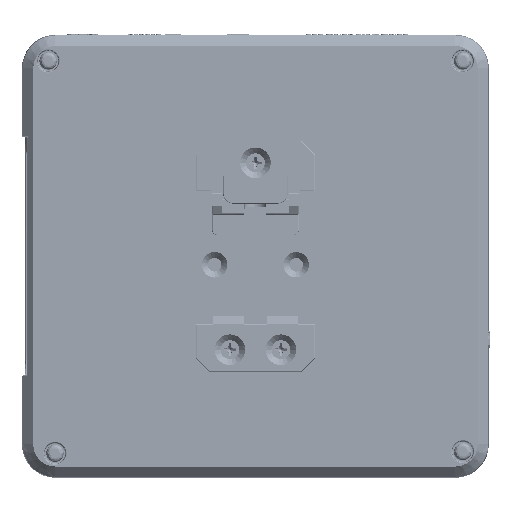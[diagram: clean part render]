
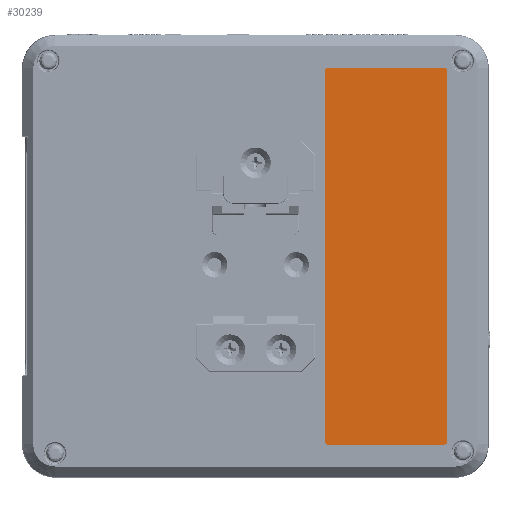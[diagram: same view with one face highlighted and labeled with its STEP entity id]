
A CAD part, front view. The second image highlights one B-rep face of the part: STEP entity #30239.
In plain terms, the highlighted planar face has unit normal (0, -1, 0).
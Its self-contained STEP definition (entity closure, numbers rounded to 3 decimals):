
#3517 = DIRECTION ( 'NONE',  ( 0., 0., 1. ) ) ;
#8633 = VECTOR ( 'NONE', #357803, 1000. ) ;
#8863 = CARTESIAN_POINT ( 'NONE',  ( 20.5, 0.2, -55.5 ) ) ;
#11775 = CARTESIAN_POINT ( 'NONE',  ( 21.5, 0.2, 55.5 ) ) ;
#16938 = LINE ( 'NONE', #366071, #159374 ) ;
#19784 = EDGE_LOOP ( 'NONE', ( #446763, #101046, #193505, #92716, #397189, #395133, #497290, #345263 ) ) ;
#30239 = ADVANCED_FACE ( 'NONE', ( #147780 ), #92141, .F. ) ;
#51324 = VECTOR ( 'NONE', #126090, 1000. ) ;
#51830 = CIRCLE ( 'NONE', #410084, 1. ) ;
#52015 = AXIS2_PLACEMENT_3D ( 'NONE', #244689, #163062, #530766 ) ;
#57851 = VERTEX_POINT ( 'NONE', #80251 ) ;
#65027 = VERTEX_POINT ( 'NONE', #310592 ) ;
#80251 = CARTESIAN_POINT ( 'NONE',  ( 20.5, 0.2, -54.5 ) ) ;
#80490 = VERTEX_POINT ( 'NONE', #273463 ) ;
#92141 = PLANE ( 'NONE',  #440659 ) ;
#92716 = ORIENTED_EDGE ( 'NONE', *, *, #473490, .T. ) ;
#101046 = ORIENTED_EDGE ( 'NONE', *, *, #157831, .T. ) ;
#115336 = VERTEX_POINT ( 'NONE', #180851 ) ;
#115528 = EDGE_CURVE ( 'NONE', #57851, #171941, #244914, .T. ) ;
#123252 = DIRECTION ( 'NONE',  ( -1., 0., 0. ) ) ;
#126090 = DIRECTION ( 'NONE',  ( 0., 0., -1. ) ) ;
#128394 = DIRECTION ( 'NONE',  ( 0., 1., 0. ) ) ;
#147780 = FACE_OUTER_BOUND ( 'NONE', #19784, .T. ) ;
#157831 = EDGE_CURVE ( 'NONE', #65027, #80490, #472776, .T. ) ;
#159374 = VECTOR ( 'NONE', #123252, 1000. ) ;
#163062 = DIRECTION ( 'NONE',  ( 0., -1., 0. ) ) ;
#171941 = VERTEX_POINT ( 'NONE', #179454 ) ;
#179454 = CARTESIAN_POINT ( 'NONE',  ( 21.5, 0.2, -55.5 ) ) ;
#180851 = CARTESIAN_POINT ( 'NONE',  ( 56.5, 0.2, -54.5 ) ) ;
#193505 = ORIENTED_EDGE ( 'NONE', *, *, #471322, .T. ) ;
#197323 = DIRECTION ( 'NONE',  ( 1., 0., 0. ) ) ;
#220313 = DIRECTION ( 'NONE',  ( 0., 0., 1. ) ) ;
#237151 = CARTESIAN_POINT ( 'NONE',  ( 20.5, 0.2, 54.5 ) ) ;
#242666 = VERTEX_POINT ( 'NONE', #285422 ) ;
#244689 = CARTESIAN_POINT ( 'NONE',  ( 55.5, 0.2, 54.5 ) ) ;
#244914 = CIRCLE ( 'NONE', #317127, 1. ) ;
#260541 = DIRECTION ( 'NONE',  ( 0., 0., 1. ) ) ;
#271093 = EDGE_CURVE ( 'NONE', #508508, #57851, #518622, .T. ) ;
#273463 = CARTESIAN_POINT ( 'NONE',  ( 55.5, 0.2, 55.5 ) ) ;
#285422 = CARTESIAN_POINT ( 'NONE',  ( 55.5, 0.2, -55.5 ) ) ;
#292151 = VECTOR ( 'NONE', #197323, 1000. ) ;
#308982 = CARTESIAN_POINT ( 'NONE',  ( 21.5, 0.2, 54.5 ) ) ;
#310592 = CARTESIAN_POINT ( 'NONE',  ( 56.5, 0.2, 54.5 ) ) ;
#314757 = CARTESIAN_POINT ( 'NONE',  ( 55.5, 0.2, -54.5 ) ) ;
#317127 = AXIS2_PLACEMENT_3D ( 'NONE', #412886, #372967, #3517 ) ;
#345263 = ORIENTED_EDGE ( 'NONE', *, *, #481505, .F. ) ;
#357803 = DIRECTION ( 'NONE',  ( 0., 0., 1. ) ) ;
#366071 = CARTESIAN_POINT ( 'NONE',  ( 38.5, 0.2, 55.5 ) ) ;
#372967 = DIRECTION ( 'NONE',  ( 0., -1., 0. ) ) ;
#377851 = CARTESIAN_POINT ( 'NONE',  ( 20.5, 0.2, 0. ) ) ;
#379902 = AXIS2_PLACEMENT_3D ( 'NONE', #314757, #526451, #522912 ) ;
#395133 = ORIENTED_EDGE ( 'NONE', *, *, #115528, .T. ) ;
#397189 = ORIENTED_EDGE ( 'NONE', *, *, #271093, .T. ) ;
#410084 = AXIS2_PLACEMENT_3D ( 'NONE', #308982, #431967, #220313 ) ;
#412886 = CARTESIAN_POINT ( 'NONE',  ( 21.5, 0.2, -54.5 ) ) ;
#431967 = DIRECTION ( 'NONE',  ( 0., -1., 0. ) ) ;
#440659 = AXIS2_PLACEMENT_3D ( 'NONE', #8863, #128394, #260541 ) ;
#442107 = LINE ( 'NONE', #445274, #292151 ) ;
#445274 = CARTESIAN_POINT ( 'NONE',  ( 38.5, 0.2, -55.5 ) ) ;
#446763 = ORIENTED_EDGE ( 'NONE', *, *, #501610, .T. ) ;
#449221 = LINE ( 'NONE', #526178, #8633 ) ;
#450908 = CIRCLE ( 'NONE', #379902, 1. ) ;
#471322 = EDGE_CURVE ( 'NONE', #80490, #485579, #16938, .T. ) ;
#472776 = CIRCLE ( 'NONE', #52015, 1. ) ;
#473490 = EDGE_CURVE ( 'NONE', #485579, #508508, #51830, .T. ) ;
#481505 = EDGE_CURVE ( 'NONE', #115336, #242666, #450908, .T. ) ;
#485579 = VERTEX_POINT ( 'NONE', #11775 ) ;
#497290 = ORIENTED_EDGE ( 'NONE', *, *, #535403, .T. ) ;
#501610 = EDGE_CURVE ( 'NONE', #115336, #65027, #449221, .T. ) ;
#508508 = VERTEX_POINT ( 'NONE', #237151 ) ;
#518622 = LINE ( 'NONE', #377851, #51324 ) ;
#522912 = DIRECTION ( 'NONE',  ( 0., 0., 1. ) ) ;
#526178 = CARTESIAN_POINT ( 'NONE',  ( 56.5, 0.2, 0. ) ) ;
#526451 = DIRECTION ( 'NONE',  ( 0., 1., 0. ) ) ;
#530766 = DIRECTION ( 'NONE',  ( 0., 0., 1. ) ) ;
#535403 = EDGE_CURVE ( 'NONE', #171941, #242666, #442107, .T. ) ;
